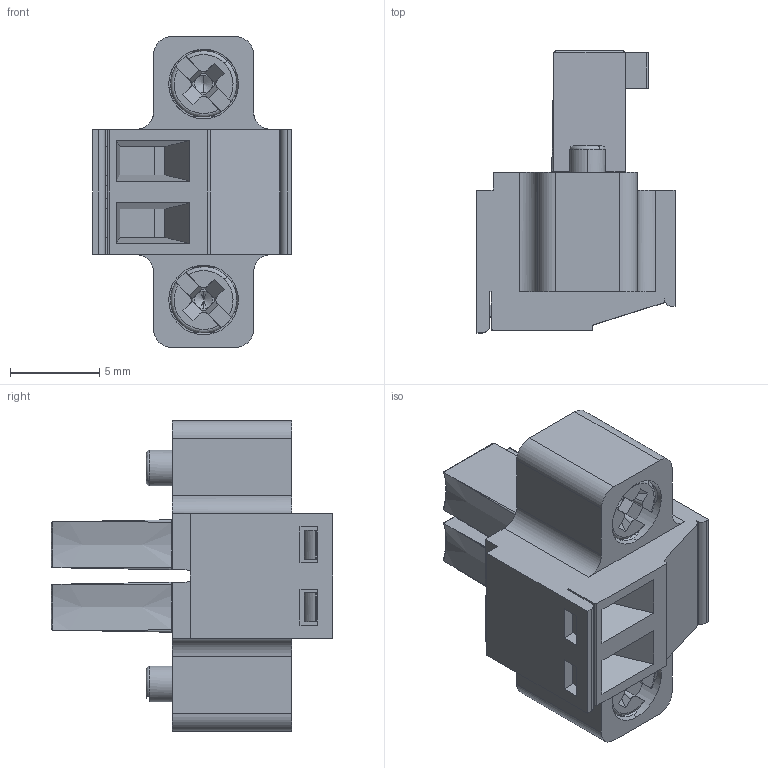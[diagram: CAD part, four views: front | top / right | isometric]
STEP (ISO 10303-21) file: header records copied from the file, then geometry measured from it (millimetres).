
FILE_DESCRIPTION (( 'STEP AP203' ), '1' );
FILE_NAME ('8933-C111158GAACA02A-1110823.STEP', '2022-08-23T07:25:19', ( '' ), ( '' ), 'SwSTEP 2.0', 'SolidWorks 2019', '' );
FILE_SCHEMA (( 'CONFIG_CONTROL_DESIGN' ));
Length unit declared in the file: millimetre
Products named in the file (2): 8933-C111158GAACA02A-1110823
Assembly tree (1 placements, depth 2):
  8933-C111158GAACA02A-1110823
    8933-C111158GAACA02A-1110823
Bounding box: 11.1 x 15.8 x 17.4 mm (x, y, z)
Volume: 819 mm3; surface area: 2347.7 mm2
Topology: 1 solids, 1 shells, 813 faces, 2492 edges, 1643 vertices
Faces by surface type: plane 392, cylinder 273, bspline 116, cone 32
Entity records: 41497 total; most frequent: CARTESIAN_POINT 21210, ORIENTED_EDGE 4952, DIRECTION 3163, EDGE_CURVE 2476, VERTEX_POINT 1643, VECTOR 1169, LINE 1169, AXIS2_PLACEMENT_3D 997
